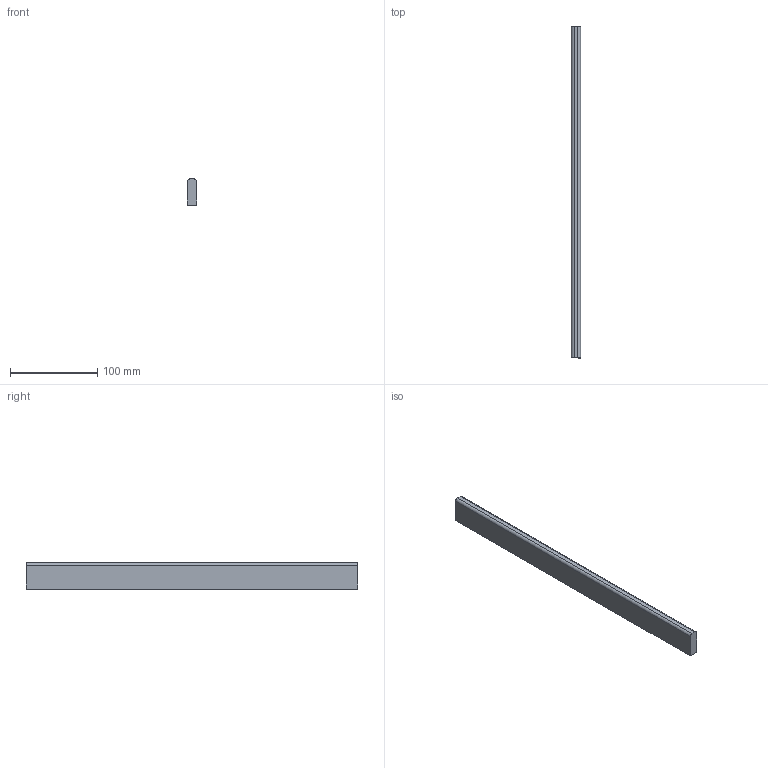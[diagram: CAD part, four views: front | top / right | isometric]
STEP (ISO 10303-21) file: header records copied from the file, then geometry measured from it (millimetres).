
FILE_DESCRIPTION (( 'STEP AP214' ), '1' );
FILE_NAME ('_Seitenreling_SP60701200_RL380.step', '2010-09-06T14:51:39', ( 'grass' ), ( '' ), 'SwSTEP 2.0', 'SolidWorks 2010', '' );
FILE_SCHEMA (( 'AUTOMOTIVE_DESIGN' ));
Length unit declared in the file: millimetre
Products named in the file (1): _Seitenreling_SP60701200_RL380
Bounding box: 10.5 x 380 x 30 mm (x, y, z)
Volume: 118232.1 mm3; surface area: 30423.7 mm2
Topology: 1 solids, 1 shells, 8 faces, 18 edges, 12 vertices
Faces by surface type: plane 6, cylinder 2
Entity records: 260 total; most frequent: DIRECTION 40, CARTESIAN_POINT 39, ORIENTED_EDGE 36, EDGE_CURVE 18, LINE 14, VECTOR 14, AXIS2_PLACEMENT_3D 13, VERTEX_POINT 12
